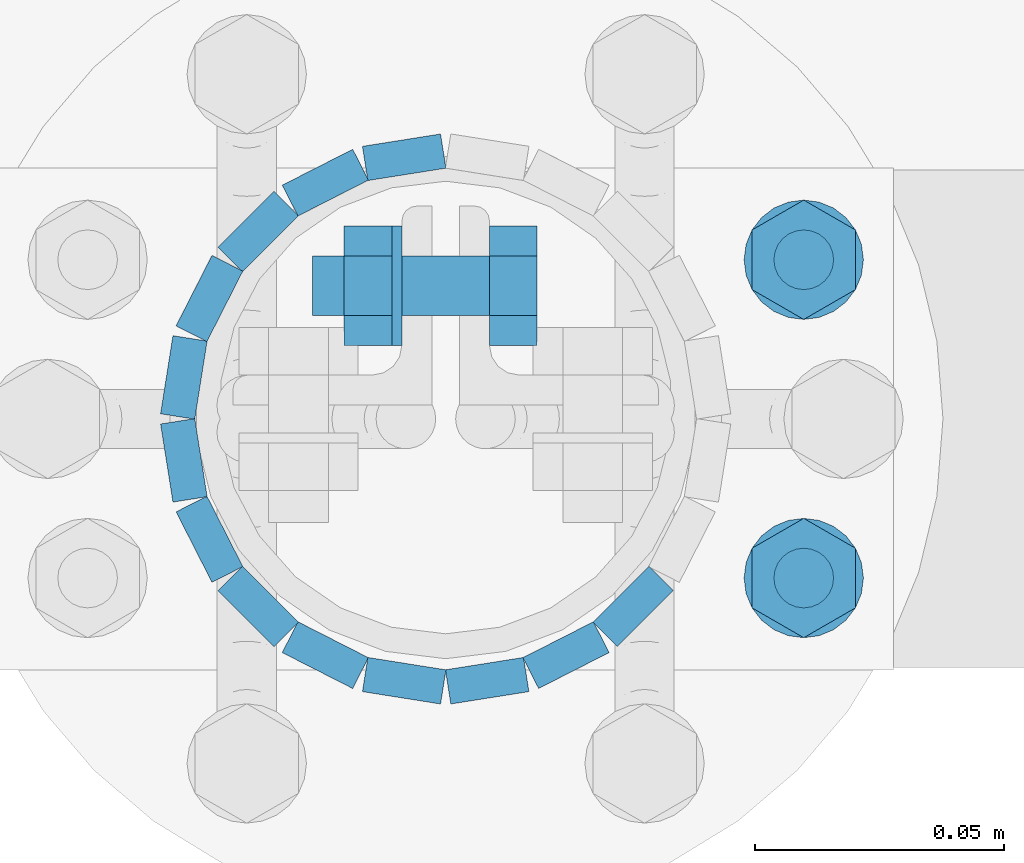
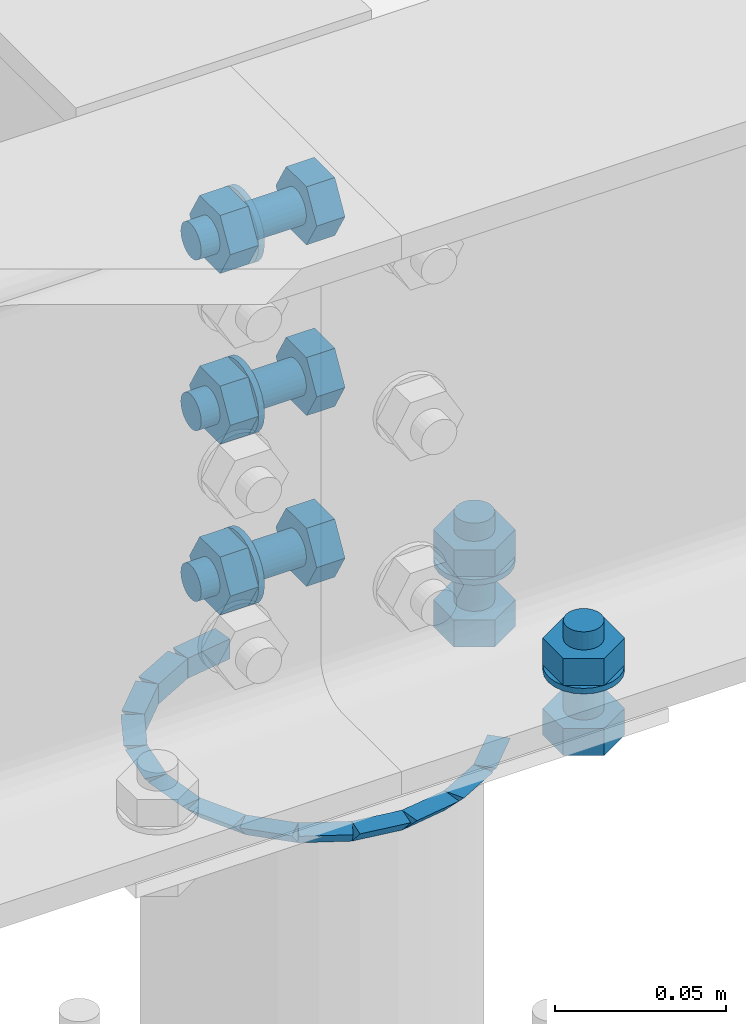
# One storey, part 46 of 84: 31 mechanical fasteners, 13 fasteners.
"""IFC4 building model written with IfcOpenShell, lengths in metres."""

from ifc_helpers import new_model, si_unit, frame, origin_with_axes, place, context, project, spatial, polyline, outline, extrude, type_object, element, save


model = new_model("IFC4")

# Units and contexts
model_context = context("Model", 3, precision=1e-05, world=origin_with_axes())
ifc_project = project(units=[si_unit("LENGTHUNIT", "METRE"), si_unit("AREAUNIT", "SQUARE_METRE"), si_unit("VOLUMEUNIT", "CUBIC_METRE"), si_unit("MASSUNIT", "GRAM", prefix="KILO"), si_unit("TIMEUNIT", "SECOND"), si_unit("PLANEANGLEUNIT", "RADIAN"), si_unit("SOLIDANGLEUNIT", "STERADIAN"), si_unit("THERMODYNAMICTEMPERATUREUNIT", "DEGREE_CELSIUS")], contexts=[model_context])

# Site, building, storey
placement_1 = place(None, origin_with_axes())
site = spatial("IfcSite", under=ifc_project, at=placement_1, Name="Italia", CompositionType="ELEMENT")
building = spatial("IfcBuilding", under=site, at=placement_1, Name="Tettoia", CompositionType="ELEMENT")
storey_placement = place(None, frame((0.0, 0.0, 4.199999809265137), z_axis=(0.0, 0.0, 1.0), x_axis=(1.0, 0.0, 0.0)))
storey = spatial("IfcBuildingStorey", under=building, at=storey_placement, Name="Storey 1", CompositionType="ELEMENT", Elevation=4.199999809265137)

# Fasteners
fastener_type_1 = type_object("IfcFastenerType", Name="Collegamento 0108_-008", PredefinedType="WELD")
placement_2 = place(placement_1, origin_with_axes())
fastener_1_placement = place(placement_2, origin_with_axes())
element("IfcFastener", 1, at=fastener_1_placement, inside=storey, type_object=fastener_type_1, Name="Collegamento 0108_-008", context=model_context, shape_type="SweptSolid", body=[
    extrude(outline(polyline([(0.0, 0.0), (-0.00695801, -0.00717354), (-0.00695801, 0.0), (0.0, 0.0)])), frame((4.11578, 9.93547, 4.19505), z_axis=(-0.70710676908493, -0.70710676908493, 0.0), x_axis=(0.70710676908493, -0.70710676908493, 0.0)), (0.0, 0.0, 1.0), 0.0158998),
])
fastener_type_2 = type_object("IfcFastenerType", Name="Collegamento 0108_-008", PredefinedType="WELD")
fastener_2_placement = place(placement_2, origin_with_axes())
element("IfcFastener", 2, at=fastener_2_placement, inside=storey, type_object=fastener_type_2, Name="Collegamento 0108_-008", context=model_context, shape_type="SweptSolid", body=[
    extrude(outline(polyline([(0.0, 0.0), (-0.00695801, -0.00717354), (-0.00695801, 0.0), (0.0, 0.0)])), frame((4.10286, 9.92301, 4.19505), z_axis=(-0.891006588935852, -0.453990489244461, 0.0), x_axis=(0.453990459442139, -0.891006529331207, 0.0)), (0.0, 0.0, 1.0), 0.0158998),
])
fastener_type_3 = type_object("IfcFastenerType", Name="Collegamento 0108_-008", PredefinedType="WELD")
fastener_3_placement = place(placement_2, origin_with_axes())
element("IfcFastener", 3, at=fastener_3_placement, inside=storey, type_object=fastener_type_3, Name="Collegamento 0108_-008", context=model_context, shape_type="SweptSolid", body=[
    extrude(outline(polyline([(0.0, 0.0), (-0.00695801, -0.00717354), (-0.00695801, 0.0), (0.0, 0.0)])), frame((4.08674, 9.91516, 4.19505), z_axis=(-0.987680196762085, -0.1564861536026, 0.0), x_axis=(0.156486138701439, -0.98768013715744, 0.0)), (0.0, 0.0, 1.0), 0.0159),
])
fastener_type_4 = type_object("IfcFastenerType", Name="Collegamento 0108_-008", PredefinedType="WELD")
fastener_4_placement = place(placement_2, origin_with_axes())
element("IfcFastener", 4, at=fastener_4_placement, inside=storey, type_object=fastener_type_4, Name="Collegamento 0108_-008", context=model_context, shape_type="SweptSolid", body=[
    extrude(outline(polyline([(0.0, 0.0), (-0.00695896, -0.00717354), (-0.00695896, 0.0), (0.0, 0.0)])), frame((4.06897, 9.91267, 4.19505), z_axis=(-0.987680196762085, 0.1564861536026, 0.0), x_axis=(-0.156486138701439, -0.98768013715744, 0.0)), (0.0, 0.0, 1.0), 0.0159),
])
fastener_type_5 = type_object("IfcFastenerType", Name="Collegamento 0108_-008", PredefinedType="WELD")
fastener_5_placement = place(placement_2, origin_with_axes())
element("IfcFastener", 5, at=fastener_5_placement, inside=storey, type_object=fastener_type_5, Name="Collegamento 0108_-008", context=model_context, shape_type="SweptSolid", body=[
    extrude(outline(polyline([(0.0, 0.0), (-0.00695705, -0.00717354), (-0.00695705, 0.0), (0.0, 0.0)])), frame((4.0513, 9.91579, 4.19505), z_axis=(-0.891006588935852, 0.453990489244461, 0.0), x_axis=(-0.453990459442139, -0.891006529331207, 0.0)), (0.0, 0.0, 1.0), 0.0158998),
])
fastener_type_6 = type_object("IfcFastenerType", Name="Collegamento 0108_-008", PredefinedType="WELD")
fastener_6_placement = place(placement_2, origin_with_axes())
element("IfcFastener", 6, at=fastener_6_placement, inside=storey, type_object=fastener_type_6, Name="Collegamento 0108_-008", context=model_context, shape_type="SweptSolid", body=[
    extrude(outline(polyline([(0.0, 0.0), (-0.00695801, -0.00717354), (-0.00695801, 0.0), (0.0, 0.0)])), frame((4.03547, 9.92422, 4.19505), z_axis=(-0.70710676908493, 0.70710676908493, 0.0), x_axis=(-0.70710676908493, -0.70710676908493, 0.0)), (0.0, 0.0, 1.0), 0.0158998),
])
fastener_type_7 = type_object("IfcFastenerType", Name="Collegamento 0108_-008", PredefinedType="WELD")
fastener_7_placement = place(placement_2, origin_with_axes())
element("IfcFastener", 7, at=fastener_7_placement, inside=storey, type_object=fastener_type_7, Name="Collegamento 0108_-008", context=model_context, shape_type="SweptSolid", body=[
    extrude(outline(polyline([(0.0, 0.0), (-0.00695801, -0.00717354), (-0.00695801, 0.0), (0.0, 0.0)])), frame((4.02301, 9.93714, 4.19505), z_axis=(-0.453990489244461, 0.891006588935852, 0.0), x_axis=(-0.891006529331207, -0.453990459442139, 0.0)), (0.0, 0.0, 1.0), 0.0158998),
])
fastener_type_8 = type_object("IfcFastenerType", Name="Collegamento 0108_-008", PredefinedType="WELD")
fastener_8_placement = place(placement_2, origin_with_axes())
element("IfcFastener", 8, at=fastener_8_placement, inside=storey, type_object=fastener_type_8, Name="Collegamento 0108_-008", context=model_context, shape_type="SweptSolid", body=[
    extrude(outline(polyline([(0.0, 0.0), (-0.00695801, -0.00717354), (-0.00695801, 0.0), (0.0, 0.0)])), frame((4.01516, 9.95327, 4.19505), z_axis=(-0.156398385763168, 0.987694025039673, 0.0), x_axis=(-0.987694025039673, -0.156398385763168, 0.0)), (0.0, 0.0, 1.0), 0.0158998),
])
fastener_type_9 = type_object("IfcFastenerType", Name="Collegamento 0108_-008", PredefinedType="WELD")
fastener_9_placement = place(placement_2, origin_with_axes())
element("IfcFastener", 9, at=fastener_9_placement, inside=storey, type_object=fastener_type_9, Name="Collegamento 0108_-008", context=model_context, shape_type="SweptSolid", body=[
    extrude(outline(polyline([(0.0, 0.0), (-0.00695753, -0.00717354), (-0.00695753, 0.0), (0.0, 0.0)])), frame((4.01267, 9.97103, 4.19505), z_axis=(0.156398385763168, 0.987694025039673, 0.0), x_axis=(-0.987694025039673, 0.156398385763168, 0.0)), (0.0, 0.0, 1.0), 0.0158998),
])
fastener_type_10 = type_object("IfcFastenerType", Name="Collegamento 0108_-008", PredefinedType="WELD")
fastener_10_placement = place(placement_2, origin_with_axes())
element("IfcFastener", 10, at=fastener_10_placement, inside=storey, type_object=fastener_type_10, Name="Collegamento 0108_-008", context=model_context, shape_type="SweptSolid", body=[
    extrude(outline(polyline([(0.0, 0.0), (-0.00695848, -0.00717354), (-0.00695848, 0.0), (0.0, 0.0)])), frame((4.01579, 9.9887, 4.19505), z_axis=(0.453990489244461, 0.891006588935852, 0.0), x_axis=(-0.891006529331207, 0.453990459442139, 0.0)), (0.0, 0.0, 1.0), 0.0158998),
])
fastener_type_11 = type_object("IfcFastenerType", Name="Collegamento 0108_-008", PredefinedType="WELD")
fastener_11_placement = place(placement_2, origin_with_axes())
element("IfcFastener", 11, at=fastener_11_placement, inside=storey, type_object=fastener_type_11, Name="Collegamento 0108_-008", context=model_context, shape_type="SweptSolid", body=[
    extrude(outline(polyline([(0.0, 0.0), (-0.00695801, -0.00717354), (-0.00695801, 0.0), (0.0, 0.0)])), frame((4.02422, 10.0045, 4.19505), z_axis=(0.70710676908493, 0.70710676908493, 0.0), x_axis=(-0.70710676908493, 0.70710676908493, 0.0)), (0.0, 0.0, 1.0), 0.0158998),
])
fastener_type_12 = type_object("IfcFastenerType", Name="Collegamento 0108_-008", PredefinedType="WELD")
fastener_12_placement = place(placement_2, origin_with_axes())
element("IfcFastener", 12, at=fastener_12_placement, inside=storey, type_object=fastener_type_12, Name="Collegamento 0108_-008", context=model_context, shape_type="SweptSolid", body=[
    extrude(outline(polyline([(0.0, 0.0), (-0.00695848, -0.00717354), (-0.00695848, 0.0), (0.0, 0.0)])), frame((4.03714, 10.017, 4.19505), z_axis=(0.891006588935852, 0.453990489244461, 0.0), x_axis=(-0.453990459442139, 0.891006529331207, 0.0)), (0.0, 0.0, 1.0), 0.0158998),
])
fastener_type_13 = type_object("IfcFastenerType", Name="Collegamento 0108_-008", PredefinedType="WELD")
fastener_13_placement = place(placement_2, origin_with_axes())
element("IfcFastener", 13, at=fastener_13_placement, inside=storey, type_object=fastener_type_13, Name="Collegamento 0108_-008", context=model_context, shape_type="SweptSolid", body=[
    extrude(outline(polyline([(0.0, 0.0), (-0.00695801, -0.00717354), (-0.00695801, 0.0), (0.0, 0.0)])), frame((4.05326, 10.0248, 4.19505), z_axis=(0.987680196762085, 0.1564861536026, 0.0), x_axis=(-0.156486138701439, 0.98768013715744, 0.0)), (0.0, 0.0, 1.0), 0.0159),
])

# Mechanical fasteners
mechanical_fastener_type_1 = type_object("IfcMechanicalFastenerType", Name="Collegamento 0108_-008", PredefinedType="BOLT")
mechanical_fastener_1_placement = place(placement_2, origin_with_axes())
element("IfcMechanicalFastener", 14, at=mechanical_fastener_1_placement, inside=storey, type_object=mechanical_fastener_type_1, Name="Collegamento 0108_-008", NominalDiameter=0.0119997, context=model_context, shape_type="SweptSolid", body=[
    extrude(outline(polyline([(0.0, 0.0), (0.0120001, 0.0), (0.0179996, -0.0103922), (0.0120001, -0.0207844), (0.0, -0.0207844), (-0.00599957, -0.0103922), (0.0, 0.0)])), frame((4.15239, 9.996, 4.195), z_axis=(0.0, 0.0, -1.0), x_axis=(0.0, 1.0, 0.0)), (0.0, 0.0, 1.0), 0.00959969),
])
mechanical_fastener_type_2 = type_object("IfcMechanicalFastenerType", Name="Collegamento 0108_-008", PredefinedType="BOLT")
mechanical_fastener_2_placement = place(placement_2, origin_with_axes())
element("IfcMechanicalFastener", 15, at=mechanical_fastener_2_placement, inside=storey, type_object=mechanical_fastener_type_2, Name="Collegamento 0108_-008", NominalDiameter=0.012, context=model_context, shape_type="SweptSolid", body=[
    extrude(outline(polyline([(0.0, 0.0), (-0.000204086, -0.00155306), (-0.000802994, -0.00299978), (-0.00175667, -0.00424242), (-0.00299931, -0.00519609), (-0.00444698, -0.00579548), (-0.00599957, -0.00600004), (-0.00755215, -0.00579548), (-0.00899982, -0.00519609), (-0.0102425, -0.00424242), (-0.0111961, -0.00299978), (-0.011795, -0.00155306), (-0.0119991, 0.0), (-0.011795, 0.00155306), (-0.0111961, 0.00299978), (-0.0102425, 0.00424242), (-0.00899982, 0.00519609), (-0.00755215, 0.00579548), (-0.00599957, 0.00600004), (-0.00444698, 0.00579548), (-0.00299931, 0.00519609), (-0.00175667, 0.00424242), (-0.000802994, 0.00299978), (-0.000204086, 0.00155306), (0.0, 0.0)])), frame((4.142, 10.008, 4.2265), z_axis=(0.0, 0.0, -1.0), x_axis=(0.0, 1.0, 0.0)), (0.0, 0.0, 1.0), 0.0315003),
])
mechanical_fastener_type_3 = type_object("IfcMechanicalFastenerType", Name="Collegamento 0108_-008", PredefinedType="BOLT")
mechanical_fastener_3_placement = place(placement_2, origin_with_axes())
element("IfcMechanicalFastener", 16, at=mechanical_fastener_3_placement, inside=storey, type_object=mechanical_fastener_type_3, Name="Collegamento 0108_-008", NominalDiameter=0.0119997, context=model_context, shape_type="SweptSolid", body=[
    extrude(outline(polyline([(0.0, 0.0), (0.0120001, 0.0), (0.0179996, -0.0103922), (0.0120001, -0.0207844), (0.0, -0.0207844), (-0.00599957, -0.0103922), (0.0, 0.0)])), frame((4.15239, 9.996, 4.2201), z_axis=(0.0, 0.0, -1.0), x_axis=(0.0, 1.0, 0.0)), (0.0, 0.0, 1.0), 0.00960016),
])
mechanical_fastener_type_4 = type_object("IfcMechanicalFastenerType", Name="Collegamento 0108_-008", PredefinedType="BOLT")
mechanical_fastener_4_placement = place(placement_2, origin_with_axes())
element("IfcMechanicalFastener", 17, at=mechanical_fastener_4_placement, inside=storey, type_object=mechanical_fastener_type_4, Name="Collegamento 0108_-008", NominalDiameter=0.024, context=model_context, shape_type="SweptSolid", body=[
    extrude(outline(polyline([(0.0, 0.0), (-0.000409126, -0.00310564), (-0.00160789, -0.00600004), (-0.00351524, -0.00848532), (-0.00600052, -0.0103922), (-0.00889397, -0.011591), (-0.0120001, -0.0120001), (-0.0151062, -0.011591), (-0.0179996, -0.0103922), (-0.0204849, -0.00848532), (-0.0223923, -0.00600004), (-0.023591, -0.00310564), (-0.0240002, 0.0), (-0.023591, 0.00310564), (-0.0223923, 0.00600004), (-0.0204849, 0.00848532), (-0.0179996, 0.0103922), (-0.0151062, 0.011591), (-0.0120001, 0.0120001), (-0.00889397, 0.011591), (-0.00600052, 0.0103922), (-0.00351524, 0.00848532), (-0.00160789, 0.00600004), (-0.000409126, 0.00310564), (0.0, 0.0)])), frame((4.142, 10.014, 4.2105), z_axis=(0.0, 0.0, -1.0), x_axis=(0.0, 1.0, 0.0)), (0.0, 0.0, 1.0), 0.00199986),
])
mechanical_fastener_type_5 = type_object("IfcMechanicalFastenerType", Name="Collegamento 0108_-008", PredefinedType="BOLT")
mechanical_fastener_5_placement = place(placement_2, origin_with_axes())
element("IfcMechanicalFastener", 18, at=mechanical_fastener_5_placement, inside=storey, type_object=mechanical_fastener_type_5, Name="Collegamento 0108_-008", NominalDiameter=0.0119997, context=model_context, shape_type="SweptSolid", body=[
    extrude(outline(polyline([(0.0, 0.0), (0.0120001, 0.0), (0.0179996, -0.0103922), (0.0120001, -0.0207844), (0.0, -0.0207844), (-0.00599957, -0.0103922), (0.0, 0.0)])), frame((4.15239, 9.932, 4.195), z_axis=(0.0, 0.0, -1.0), x_axis=(0.0, 1.0, 0.0)), (0.0, 0.0, 1.0), 0.00959969),
])
mechanical_fastener_type_6 = type_object("IfcMechanicalFastenerType", Name="Collegamento 0108_-008", PredefinedType="BOLT")
mechanical_fastener_6_placement = place(placement_2, origin_with_axes())
element("IfcMechanicalFastener", 19, at=mechanical_fastener_6_placement, inside=storey, type_object=mechanical_fastener_type_6, Name="Collegamento 0108_-008", NominalDiameter=0.012, context=model_context, shape_type="SweptSolid", body=[
    extrude(outline(polyline([(0.0, 0.0), (-0.000204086, -0.00155306), (-0.000802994, -0.00299978), (-0.00175667, -0.00424242), (-0.00299931, -0.00519609), (-0.00444698, -0.00579548), (-0.00599957, -0.00600004), (-0.00755215, -0.00579548), (-0.00899982, -0.00519609), (-0.0102425, -0.00424242), (-0.0111961, -0.00299978), (-0.011795, -0.00155306), (-0.0119991, 0.0), (-0.011795, 0.00155306), (-0.0111961, 0.00299978), (-0.0102425, 0.00424242), (-0.00899982, 0.00519609), (-0.00755215, 0.00579548), (-0.00599957, 0.00600004), (-0.00444698, 0.00579548), (-0.00299931, 0.00519609), (-0.00175667, 0.00424242), (-0.000802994, 0.00299978), (-0.000204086, 0.00155306), (0.0, 0.0)])), frame((4.142, 9.944, 4.2265), z_axis=(0.0, 0.0, -1.0), x_axis=(0.0, 1.0, 0.0)), (0.0, 0.0, 1.0), 0.0315003),
])
mechanical_fastener_type_7 = type_object("IfcMechanicalFastenerType", Name="Collegamento 0108_-008", PredefinedType="BOLT")
mechanical_fastener_7_placement = place(placement_2, origin_with_axes())
element("IfcMechanicalFastener", 20, at=mechanical_fastener_7_placement, inside=storey, type_object=mechanical_fastener_type_7, Name="Collegamento 0108_-008", NominalDiameter=0.0119997, context=model_context, shape_type="SweptSolid", body=[
    extrude(outline(polyline([(0.0, 0.0), (0.0120001, 0.0), (0.0179996, -0.0103922), (0.0120001, -0.0207844), (0.0, -0.0207844), (-0.00599957, -0.0103922), (0.0, 0.0)])), frame((4.15239, 9.932, 4.2201), z_axis=(0.0, 0.0, -1.0), x_axis=(0.0, 1.0, 0.0)), (0.0, 0.0, 1.0), 0.00960016),
])
mechanical_fastener_type_8 = type_object("IfcMechanicalFastenerType", Name="Collegamento 0108_-008", PredefinedType="BOLT")
mechanical_fastener_8_placement = place(placement_2, origin_with_axes())
element("IfcMechanicalFastener", 21, at=mechanical_fastener_8_placement, inside=storey, type_object=mechanical_fastener_type_8, Name="Collegamento 0108_-008", NominalDiameter=0.024, context=model_context, shape_type="SweptSolid", body=[
    extrude(outline(polyline([(0.0, 0.0), (-0.000409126, -0.00310564), (-0.00160789, -0.00600004), (-0.00351524, -0.00848532), (-0.00600052, -0.0103922), (-0.00889397, -0.011591), (-0.0120001, -0.0120001), (-0.0151062, -0.011591), (-0.0179996, -0.0103922), (-0.0204849, -0.00848532), (-0.0223923, -0.00600004), (-0.023591, -0.00310564), (-0.0240002, 0.0), (-0.023591, 0.00310564), (-0.0223923, 0.00600004), (-0.0204849, 0.00848532), (-0.0179996, 0.0103922), (-0.0151062, 0.011591), (-0.0120001, 0.0120001), (-0.00889397, 0.011591), (-0.00600052, 0.0103922), (-0.00351524, 0.00848532), (-0.00160789, 0.00600004), (-0.000409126, 0.00310564), (0.0, 0.0)])), frame((4.142, 9.95, 4.2105), z_axis=(0.0, 0.0, -1.0), x_axis=(0.0, 1.0, 0.0)), (0.0, 0.0, 1.0), 0.00199986),
])
mechanical_fastener_type_9 = type_object("IfcMechanicalFastenerType", Name="Collegamento 0108_0112", PredefinedType="BOLT")
mechanical_fastener_9_placement = place(placement_2, origin_with_axes())
element("IfcMechanicalFastener", 22, at=mechanical_fastener_9_placement, inside=storey, type_object=mechanical_fastener_type_9, Name="Collegamento 0108_0112", NominalDiameter=0.0119997, context=model_context, shape_type="SweptSolid", body=[
    extrude(outline(polyline([(0.0, 0.0), (-0.0120001, 0.0), (-0.0179996, 0.0103927), (-0.0120001, 0.0207849), (0.0, 0.0207849), (0.00600052, 0.0103927), (0.0, 0.0)])), frame((4.0788, 10.0028, 4.22861), z_axis=(1.0, 0.0, 0.0), x_axis=(0.0, 1.0, 0.0)), (0.0, 0.0, 1.0), 0.00960016),
])
mechanical_fastener_type_10 = type_object("IfcMechanicalFastenerType", Name="Collegamento 0108_0112", PredefinedType="BOLT")
mechanical_fastener_10_placement = place(placement_2, origin_with_axes())
element("IfcMechanicalFastener", 23, at=mechanical_fastener_10_placement, inside=storey, type_object=mechanical_fastener_type_10, Name="Collegamento 0108_0112", NominalDiameter=0.012, context=model_context, shape_type="SweptSolid", body=[
    extrude(outline(polyline([(0.0, 0.0), (-0.000204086, -0.00155306), (-0.000802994, -0.00299978), (-0.00175667, -0.00424242), (-0.00299931, -0.00519609), (-0.00444698, -0.00579548), (-0.00599957, -0.00600004), (-0.00755215, -0.00579548), (-0.00899982, -0.00519609), (-0.0102425, -0.00424242), (-0.0111961, -0.00299978), (-0.011795, -0.00155306), (-0.0119991, 0.0), (-0.011795, 0.00155306), (-0.0111961, 0.00299978), (-0.0102425, 0.00424242), (-0.00899982, 0.00519609), (-0.00755215, 0.00579548), (-0.00599957, 0.00600004), (-0.00444698, 0.00579548), (-0.00299931, 0.00519609), (-0.00175667, 0.00424242), (-0.000802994, 0.00299978), (-0.000204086, 0.00155306), (0.0, 0.0)])), frame((4.0432, 10.0028, 4.239), z_axis=(1.0, 0.0, 0.0), x_axis=(0.0, 1.0, 0.0)), (0.0, 0.0, 1.0), 0.0356002),
])
mechanical_fastener_type_11 = type_object("IfcMechanicalFastenerType", Name="Collegamento 0108_0112", PredefinedType="BOLT")
mechanical_fastener_11_placement = place(placement_2, origin_with_axes())
element("IfcMechanicalFastener", 24, at=mechanical_fastener_11_placement, inside=storey, type_object=mechanical_fastener_type_11, Name="Collegamento 0108_0112", NominalDiameter=0.0119997, context=model_context, shape_type="SweptSolid", body=[
    extrude(outline(polyline([(0.0, 0.0), (-0.0120001, 0.0), (-0.0179996, 0.0103927), (-0.0120001, 0.0207849), (0.0, 0.0207849), (0.00600052, 0.0103927), (0.0, 0.0)])), frame((4.0496, 10.0028, 4.22861), z_axis=(1.0, 0.0, 0.0), x_axis=(0.0, 1.0, 0.0)), (0.0, 0.0, 1.0), 0.00960016),
])
mechanical_fastener_type_12 = type_object("IfcMechanicalFastenerType", Name="Collegamento 0108_0112", PredefinedType="BOLT")
mechanical_fastener_12_placement = place(placement_2, origin_with_axes())
element("IfcMechanicalFastener", 25, at=mechanical_fastener_12_placement, inside=storey, type_object=mechanical_fastener_type_12, Name="Collegamento 0108_0112", NominalDiameter=0.024, context=model_context, shape_type="SweptSolid", body=[
    extrude(outline(polyline([(0.0, 0.0), (-0.000409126, -0.00310564), (-0.00160789, -0.00600004), (-0.00351524, -0.00848532), (-0.00600052, -0.0103922), (-0.00889397, -0.011591), (-0.0120001, -0.0120001), (-0.0151062, -0.011591), (-0.0179996, -0.0103922), (-0.0204849, -0.00848532), (-0.0223923, -0.00600004), (-0.023591, -0.00310564), (-0.0240002, 0.0), (-0.023591, 0.00310564), (-0.0223923, 0.00600004), (-0.0204849, 0.00848532), (-0.0179996, 0.0103922), (-0.0151062, 0.011591), (-0.0120001, 0.0120001), (-0.00889397, 0.011591), (-0.00600052, 0.0103922), (-0.00351524, 0.00848532), (-0.00160789, 0.00600004), (-0.000409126, 0.00310564), (0.0, 0.0)])), frame((4.0592, 10.0088, 4.239), z_axis=(1.0, 0.0, 0.0), x_axis=(0.0, 1.0, 0.0)), (0.0, 0.0, 1.0), 0.00199986),
])
mechanical_fastener_type_13 = type_object("IfcMechanicalFastenerType", Name="Collegamento 0108_0112", PredefinedType="BOLT")
mechanical_fastener_13_placement = place(placement_2, origin_with_axes())
element("IfcMechanicalFastener", 26, at=mechanical_fastener_13_placement, inside=storey, type_object=mechanical_fastener_type_13, Name="Collegamento 0108_0112", NominalDiameter=0.0119997, context=model_context, shape_type="SweptSolid", body=[
    extrude(outline(polyline([(0.0, 0.0), (-0.0120001, 0.0), (-0.0179996, 0.0103922), (-0.0120001, 0.0207844), (0.0, 0.0207844), (0.00600052, 0.0103922), (0.0, 0.0)])), frame((4.0788, 10.0028, 4.28961), z_axis=(1.0, 0.0, 0.0), x_axis=(0.0, 1.0, 0.0)), (0.0, 0.0, 1.0), 0.00960016),
])
mechanical_fastener_type_14 = type_object("IfcMechanicalFastenerType", Name="Collegamento 0108_0112", PredefinedType="BOLT")
mechanical_fastener_14_placement = place(placement_2, origin_with_axes())
element("IfcMechanicalFastener", 27, at=mechanical_fastener_14_placement, inside=storey, type_object=mechanical_fastener_type_14, Name="Collegamento 0108_0112", NominalDiameter=0.012, context=model_context, shape_type="SweptSolid", body=[
    extrude(outline(polyline([(0.0, 0.0), (-0.000204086, -0.00155306), (-0.000802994, -0.00299978), (-0.00175667, -0.00424242), (-0.00299931, -0.00519609), (-0.00444698, -0.00579548), (-0.00599957, -0.00600004), (-0.00755215, -0.00579548), (-0.00899982, -0.00519609), (-0.0102425, -0.00424242), (-0.0111961, -0.00299978), (-0.011795, -0.00155306), (-0.0119991, 0.0), (-0.011795, 0.00155306), (-0.0111961, 0.00299978), (-0.0102425, 0.00424242), (-0.00899982, 0.00519609), (-0.00755215, 0.00579548), (-0.00599957, 0.00600004), (-0.00444698, 0.00579548), (-0.00299931, 0.00519609), (-0.00175667, 0.00424242), (-0.000802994, 0.00299978), (-0.000204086, 0.00155306), (0.0, 0.0)])), frame((4.0432, 10.0028, 4.3), z_axis=(1.0, 0.0, 0.0), x_axis=(0.0, 1.0, 0.0)), (0.0, 0.0, 1.0), 0.0356002),
])
mechanical_fastener_type_15 = type_object("IfcMechanicalFastenerType", Name="Collegamento 0108_0112", PredefinedType="BOLT")
mechanical_fastener_15_placement = place(placement_2, origin_with_axes())
element("IfcMechanicalFastener", 28, at=mechanical_fastener_15_placement, inside=storey, type_object=mechanical_fastener_type_15, Name="Collegamento 0108_0112", NominalDiameter=0.0119997, context=model_context, shape_type="SweptSolid", body=[
    extrude(outline(polyline([(0.0, 0.0), (-0.0120001, 0.0), (-0.0179996, 0.0103922), (-0.0120001, 0.0207844), (0.0, 0.0207844), (0.00600052, 0.0103922), (0.0, 0.0)])), frame((4.0496, 10.0028, 4.28961), z_axis=(1.0, 0.0, 0.0), x_axis=(0.0, 1.0, 0.0)), (0.0, 0.0, 1.0), 0.00960016),
])
mechanical_fastener_type_16 = type_object("IfcMechanicalFastenerType", Name="Collegamento 0108_0112", PredefinedType="BOLT")
mechanical_fastener_16_placement = place(placement_2, origin_with_axes())
element("IfcMechanicalFastener", 29, at=mechanical_fastener_16_placement, inside=storey, type_object=mechanical_fastener_type_16, Name="Collegamento 0108_0112", NominalDiameter=0.024, context=model_context, shape_type="SweptSolid", body=[
    extrude(outline(polyline([(0.0, 0.0), (-0.000409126, -0.00310564), (-0.00160789, -0.00600004), (-0.00351524, -0.00848532), (-0.00600052, -0.0103922), (-0.00889397, -0.011591), (-0.0120001, -0.0120001), (-0.0151062, -0.011591), (-0.0179996, -0.0103922), (-0.0204849, -0.00848532), (-0.0223923, -0.00600004), (-0.023591, -0.00310564), (-0.0240002, 0.0), (-0.023591, 0.00310564), (-0.0223923, 0.00600004), (-0.0204849, 0.00848532), (-0.0179996, 0.0103922), (-0.0151062, 0.011591), (-0.0120001, 0.0120001), (-0.00889397, 0.011591), (-0.00600052, 0.0103922), (-0.00351524, 0.00848532), (-0.00160789, 0.00600004), (-0.000409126, 0.00310564), (0.0, 0.0)])), frame((4.0592, 10.0088, 4.3), z_axis=(1.0, 0.0, 0.0), x_axis=(0.0, 1.0, 0.0)), (0.0, 0.0, 1.0), 0.00199986),
])
mechanical_fastener_type_17 = type_object("IfcMechanicalFastenerType", Name="Collegamento 0108_0112", PredefinedType="BOLT")
mechanical_fastener_17_placement = place(placement_2, origin_with_axes())
element("IfcMechanicalFastener", 30, at=mechanical_fastener_17_placement, inside=storey, type_object=mechanical_fastener_type_17, Name="Collegamento 0108_0112", NominalDiameter=0.0119997, context=model_context, shape_type="SweptSolid", body=[
    extrude(outline(polyline([(0.0, 0.0), (-0.0120001, 0.0), (-0.0179996, 0.0103922), (-0.0120001, 0.0207849), (0.0, 0.0207849), (0.00600052, 0.0103922), (0.0, 0.0)])), frame((4.0788, 10.0028, 4.35061), z_axis=(1.0, 0.0, 0.0), x_axis=(0.0, 1.0, 0.0)), (0.0, 0.0, 1.0), 0.00960016),
])
mechanical_fastener_type_18 = type_object("IfcMechanicalFastenerType", Name="Collegamento 0108_0112", PredefinedType="BOLT")
mechanical_fastener_18_placement = place(placement_2, origin_with_axes())
element("IfcMechanicalFastener", 31, at=mechanical_fastener_18_placement, inside=storey, type_object=mechanical_fastener_type_18, Name="Collegamento 0108_0112", NominalDiameter=0.012, context=model_context, shape_type="SweptSolid", body=[
    extrude(outline(polyline([(0.0, 0.0), (-0.000204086, -0.00155306), (-0.000802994, -0.00299978), (-0.00175667, -0.00424242), (-0.00299931, -0.00519609), (-0.00444698, -0.00579548), (-0.00599957, -0.00600004), (-0.00755215, -0.00579548), (-0.00899982, -0.00519609), (-0.0102425, -0.00424242), (-0.0111961, -0.00299978), (-0.011795, -0.00155306), (-0.0119991, 0.0), (-0.011795, 0.00155306), (-0.0111961, 0.00299978), (-0.0102425, 0.00424242), (-0.00899982, 0.00519609), (-0.00755215, 0.00579548), (-0.00599957, 0.00600004), (-0.00444698, 0.00579548), (-0.00299931, 0.00519609), (-0.00175667, 0.00424242), (-0.000802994, 0.00299978), (-0.000204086, 0.00155306), (0.0, 0.0)])), frame((4.0432, 10.0028, 4.361), z_axis=(1.0, 0.0, 0.0), x_axis=(0.0, 1.0, 0.0)), (0.0, 0.0, 1.0), 0.0356002),
])
mechanical_fastener_type_19 = type_object("IfcMechanicalFastenerType", Name="Collegamento 0108_0112", PredefinedType="BOLT")
mechanical_fastener_19_placement = place(placement_2, origin_with_axes())
element("IfcMechanicalFastener", 32, at=mechanical_fastener_19_placement, inside=storey, type_object=mechanical_fastener_type_19, Name="Collegamento 0108_0112", NominalDiameter=0.0119997, context=model_context, shape_type="SweptSolid", body=[
    extrude(outline(polyline([(0.0, 0.0), (-0.0120001, 0.0), (-0.0179996, 0.0103922), (-0.0120001, 0.0207849), (0.0, 0.0207849), (0.00600052, 0.0103922), (0.0, 0.0)])), frame((4.0496, 10.0028, 4.35061), z_axis=(1.0, 0.0, 0.0), x_axis=(0.0, 1.0, 0.0)), (0.0, 0.0, 1.0), 0.00960016),
])
mechanical_fastener_type_20 = type_object("IfcMechanicalFastenerType", Name="Collegamento 0108_0112", PredefinedType="BOLT")
mechanical_fastener_20_placement = place(placement_2, origin_with_axes())
element("IfcMechanicalFastener", 33, at=mechanical_fastener_20_placement, inside=storey, type_object=mechanical_fastener_type_20, Name="Collegamento 0108_0112", NominalDiameter=0.024, context=model_context, shape_type="SweptSolid", body=[
    extrude(outline(polyline([(0.0, 0.0), (-0.000409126, -0.00310564), (-0.00160789, -0.00600004), (-0.00351524, -0.00848532), (-0.00600052, -0.0103922), (-0.00889397, -0.011591), (-0.0120001, -0.0120001), (-0.0151062, -0.011591), (-0.0179996, -0.0103922), (-0.0204849, -0.00848532), (-0.0223923, -0.00600004), (-0.023591, -0.00310564), (-0.0240002, 0.0), (-0.023591, 0.00310564), (-0.0223923, 0.00600004), (-0.0204849, 0.00848532), (-0.0179996, 0.0103922), (-0.0151062, 0.011591), (-0.0120001, 0.0120001), (-0.00889397, 0.011591), (-0.00600052, 0.0103922), (-0.00351524, 0.00848532), (-0.00160789, 0.00600004), (-0.000409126, 0.00310564), (0.0, 0.0)])), frame((4.0592, 10.0088, 4.361), z_axis=(1.0, 0.0, 0.0), x_axis=(0.0, 1.0, 0.0)), (0.0, 0.0, 1.0), 0.00199986),
])
mechanical_fastener_type_21 = type_object("IfcMechanicalFastenerType", Name="Collegamento 0108_0112", PredefinedType="BOLT")
mechanical_fastener_21_placement = place(placement_2, origin_with_axes())
element("IfcMechanicalFastener", 34, at=mechanical_fastener_21_placement, inside=storey, type_object=mechanical_fastener_type_21, Name="Collegamento 0108_0112", NominalDiameter=0.0119997, context=model_context, shape_type="SweptSolid", body=[
    extrude(outline(polyline([(0.0, 0.0), (-0.0120001, 0.0), (-0.0179996, 0.0103927), (-0.0120001, 0.0207849), (0.0, 0.0207849), (0.00600052, 0.0103927), (0.0, 0.0)])), frame((4.0788, 10.0028, 4.22861), z_axis=(1.0, 0.0, 0.0), x_axis=(0.0, 1.0, 0.0)), (0.0, 0.0, 1.0), 0.00960016),
])
mechanical_fastener_type_22 = type_object("IfcMechanicalFastenerType", Name="Collegamento 0108_0112", PredefinedType="BOLT")
mechanical_fastener_22_placement = place(placement_2, origin_with_axes())
element("IfcMechanicalFastener", 35, at=mechanical_fastener_22_placement, inside=storey, type_object=mechanical_fastener_type_22, Name="Collegamento 0108_0112", NominalDiameter=0.012, context=model_context, shape_type="SweptSolid", body=[
    extrude(outline(polyline([(0.0, 0.0), (-0.000204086, -0.00155306), (-0.000802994, -0.00299978), (-0.00175667, -0.00424242), (-0.00299931, -0.00519609), (-0.00444698, -0.00579548), (-0.00599957, -0.00600004), (-0.00755215, -0.00579548), (-0.00899982, -0.00519609), (-0.0102425, -0.00424242), (-0.0111961, -0.00299978), (-0.011795, -0.00155306), (-0.0119991, 0.0), (-0.011795, 0.00155306), (-0.0111961, 0.00299978), (-0.0102425, 0.00424242), (-0.00899982, 0.00519609), (-0.00755215, 0.00579548), (-0.00599957, 0.00600004), (-0.00444698, 0.00579548), (-0.00299931, 0.00519609), (-0.00175667, 0.00424242), (-0.000802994, 0.00299978), (-0.000204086, 0.00155306), (0.0, 0.0)])), frame((4.0432, 10.0028, 4.239), z_axis=(1.0, 0.0, 0.0), x_axis=(0.0, 1.0, 0.0)), (0.0, 0.0, 1.0), 0.0356002),
])
mechanical_fastener_type_23 = type_object("IfcMechanicalFastenerType", Name="Collegamento 0108_0112", PredefinedType="BOLT")
mechanical_fastener_23_placement = place(placement_2, origin_with_axes())
element("IfcMechanicalFastener", 36, at=mechanical_fastener_23_placement, inside=storey, type_object=mechanical_fastener_type_23, Name="Collegamento 0108_0112", NominalDiameter=0.0119997, context=model_context, shape_type="SweptSolid", body=[
    extrude(outline(polyline([(0.0, 0.0), (-0.0120001, 0.0), (-0.0179996, 0.0103927), (-0.0120001, 0.0207849), (0.0, 0.0207849), (0.00600052, 0.0103927), (0.0, 0.0)])), frame((4.0496, 10.0028, 4.22861), z_axis=(1.0, 0.0, 0.0), x_axis=(0.0, 1.0, 0.0)), (0.0, 0.0, 1.0), 0.00960016),
])
mechanical_fastener_type_24 = type_object("IfcMechanicalFastenerType", Name="Collegamento 0108_0112", PredefinedType="BOLT")
mechanical_fastener_24_placement = place(placement_2, origin_with_axes())
element("IfcMechanicalFastener", 37, at=mechanical_fastener_24_placement, inside=storey, type_object=mechanical_fastener_type_24, Name="Collegamento 0108_0112", NominalDiameter=0.024, context=model_context, shape_type="SweptSolid", body=[
    extrude(outline(polyline([(0.0, 0.0), (-0.000409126, -0.00310564), (-0.00160789, -0.00600004), (-0.00351524, -0.00848532), (-0.00600052, -0.0103922), (-0.00889397, -0.011591), (-0.0120001, -0.0120001), (-0.0151062, -0.011591), (-0.0179996, -0.0103922), (-0.0204849, -0.00848532), (-0.0223923, -0.00600004), (-0.023591, -0.00310564), (-0.0240002, 0.0), (-0.023591, 0.00310564), (-0.0223923, 0.00600004), (-0.0204849, 0.00848532), (-0.0179996, 0.0103922), (-0.0151062, 0.011591), (-0.0120001, 0.0120001), (-0.00889397, 0.011591), (-0.00600052, 0.0103922), (-0.00351524, 0.00848532), (-0.00160789, 0.00600004), (-0.000409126, 0.00310564), (0.0, 0.0)])), frame((4.0592, 10.0088, 4.239), z_axis=(1.0, 0.0, 0.0), x_axis=(0.0, 1.0, 0.0)), (0.0, 0.0, 1.0), 0.00199986),
])
mechanical_fastener_type_25 = type_object("IfcMechanicalFastenerType", Name="Collegamento 0108_0112", PredefinedType="BOLT")
mechanical_fastener_25_placement = place(placement_2, origin_with_axes())
element("IfcMechanicalFastener", 38, at=mechanical_fastener_25_placement, inside=storey, type_object=mechanical_fastener_type_25, Name="Collegamento 0108_0112", NominalDiameter=0.0119997, context=model_context, shape_type="SweptSolid", body=[
    extrude(outline(polyline([(0.0, 0.0), (-0.0120001, 0.0), (-0.0179996, 0.0103922), (-0.0120001, 0.0207844), (0.0, 0.0207844), (0.00600052, 0.0103922), (0.0, 0.0)])), frame((4.0788, 10.0028, 4.28961), z_axis=(1.0, 0.0, 0.0), x_axis=(0.0, 1.0, 0.0)), (0.0, 0.0, 1.0), 0.00960016),
])
mechanical_fastener_type_26 = type_object("IfcMechanicalFastenerType", Name="Collegamento 0108_0112", PredefinedType="BOLT")
mechanical_fastener_26_placement = place(placement_2, origin_with_axes())
element("IfcMechanicalFastener", 39, at=mechanical_fastener_26_placement, inside=storey, type_object=mechanical_fastener_type_26, Name="Collegamento 0108_0112", NominalDiameter=0.012, context=model_context, shape_type="SweptSolid", body=[
    extrude(outline(polyline([(0.0, 0.0), (-0.000204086, -0.00155306), (-0.000802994, -0.00299978), (-0.00175667, -0.00424242), (-0.00299931, -0.00519609), (-0.00444698, -0.00579548), (-0.00599957, -0.00600004), (-0.00755215, -0.00579548), (-0.00899982, -0.00519609), (-0.0102425, -0.00424242), (-0.0111961, -0.00299978), (-0.011795, -0.00155306), (-0.0119991, 0.0), (-0.011795, 0.00155306), (-0.0111961, 0.00299978), (-0.0102425, 0.00424242), (-0.00899982, 0.00519609), (-0.00755215, 0.00579548), (-0.00599957, 0.00600004), (-0.00444698, 0.00579548), (-0.00299931, 0.00519609), (-0.00175667, 0.00424242), (-0.000802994, 0.00299978), (-0.000204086, 0.00155306), (0.0, 0.0)])), frame((4.0432, 10.0028, 4.3), z_axis=(1.0, 0.0, 0.0), x_axis=(0.0, 1.0, 0.0)), (0.0, 0.0, 1.0), 0.0356002),
])
mechanical_fastener_type_27 = type_object("IfcMechanicalFastenerType", Name="Collegamento 0108_0112", PredefinedType="BOLT")
mechanical_fastener_27_placement = place(placement_2, origin_with_axes())
element("IfcMechanicalFastener", 40, at=mechanical_fastener_27_placement, inside=storey, type_object=mechanical_fastener_type_27, Name="Collegamento 0108_0112", NominalDiameter=0.0119997, context=model_context, shape_type="SweptSolid", body=[
    extrude(outline(polyline([(0.0, 0.0), (-0.0120001, 0.0), (-0.0179996, 0.0103922), (-0.0120001, 0.0207844), (0.0, 0.0207844), (0.00600052, 0.0103922), (0.0, 0.0)])), frame((4.0496, 10.0028, 4.28961), z_axis=(1.0, 0.0, 0.0), x_axis=(0.0, 1.0, 0.0)), (0.0, 0.0, 1.0), 0.00960016),
])
mechanical_fastener_type_28 = type_object("IfcMechanicalFastenerType", Name="Collegamento 0108_0112", PredefinedType="BOLT")
mechanical_fastener_28_placement = place(placement_2, origin_with_axes())
element("IfcMechanicalFastener", 41, at=mechanical_fastener_28_placement, inside=storey, type_object=mechanical_fastener_type_28, Name="Collegamento 0108_0112", NominalDiameter=0.024, context=model_context, shape_type="SweptSolid", body=[
    extrude(outline(polyline([(0.0, 0.0), (-0.000409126, -0.00310564), (-0.00160789, -0.00600004), (-0.00351524, -0.00848532), (-0.00600052, -0.0103922), (-0.00889397, -0.011591), (-0.0120001, -0.0120001), (-0.0151062, -0.011591), (-0.0179996, -0.0103922), (-0.0204849, -0.00848532), (-0.0223923, -0.00600004), (-0.023591, -0.00310564), (-0.0240002, 0.0), (-0.023591, 0.00310564), (-0.0223923, 0.00600004), (-0.0204849, 0.00848532), (-0.0179996, 0.0103922), (-0.0151062, 0.011591), (-0.0120001, 0.0120001), (-0.00889397, 0.011591), (-0.00600052, 0.0103922), (-0.00351524, 0.00848532), (-0.00160789, 0.00600004), (-0.000409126, 0.00310564), (0.0, 0.0)])), frame((4.0592, 10.0088, 4.3), z_axis=(1.0, 0.0, 0.0), x_axis=(0.0, 1.0, 0.0)), (0.0, 0.0, 1.0), 0.00199986),
])
mechanical_fastener_type_29 = type_object("IfcMechanicalFastenerType", Name="Collegamento 0108_0112", PredefinedType="BOLT")
mechanical_fastener_29_placement = place(placement_2, origin_with_axes())
element("IfcMechanicalFastener", 42, at=mechanical_fastener_29_placement, inside=storey, type_object=mechanical_fastener_type_29, Name="Collegamento 0108_0112", NominalDiameter=0.0119997, context=model_context, shape_type="SweptSolid", body=[
    extrude(outline(polyline([(0.0, 0.0), (-0.0120001, 0.0), (-0.0179996, 0.0103922), (-0.0120001, 0.0207849), (0.0, 0.0207849), (0.00600052, 0.0103922), (0.0, 0.0)])), frame((4.0788, 10.0028, 4.35061), z_axis=(1.0, 0.0, 0.0), x_axis=(0.0, 1.0, 0.0)), (0.0, 0.0, 1.0), 0.00960016),
])
mechanical_fastener_type_30 = type_object("IfcMechanicalFastenerType", Name="Collegamento 0108_0112", PredefinedType="BOLT")
mechanical_fastener_30_placement = place(placement_2, origin_with_axes())
element("IfcMechanicalFastener", 43, at=mechanical_fastener_30_placement, inside=storey, type_object=mechanical_fastener_type_30, Name="Collegamento 0108_0112", NominalDiameter=0.012, context=model_context, shape_type="SweptSolid", body=[
    extrude(outline(polyline([(0.0, 0.0), (-0.000204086, -0.00155306), (-0.000802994, -0.00299978), (-0.00175667, -0.00424242), (-0.00299931, -0.00519609), (-0.00444698, -0.00579548), (-0.00599957, -0.00600004), (-0.00755215, -0.00579548), (-0.00899982, -0.00519609), (-0.0102425, -0.00424242), (-0.0111961, -0.00299978), (-0.011795, -0.00155306), (-0.0119991, 0.0), (-0.011795, 0.00155306), (-0.0111961, 0.00299978), (-0.0102425, 0.00424242), (-0.00899982, 0.00519609), (-0.00755215, 0.00579548), (-0.00599957, 0.00600004), (-0.00444698, 0.00579548), (-0.00299931, 0.00519609), (-0.00175667, 0.00424242), (-0.000802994, 0.00299978), (-0.000204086, 0.00155306), (0.0, 0.0)])), frame((4.0432, 10.0028, 4.361), z_axis=(1.0, 0.0, 0.0), x_axis=(0.0, 1.0, 0.0)), (0.0, 0.0, 1.0), 0.0356002),
])
mechanical_fastener_type_31 = type_object("IfcMechanicalFastenerType", Name="Collegamento 0108_0112", PredefinedType="BOLT")
mechanical_fastener_31_placement = place(placement_2, origin_with_axes())
element("IfcMechanicalFastener", 44, at=mechanical_fastener_31_placement, inside=storey, type_object=mechanical_fastener_type_31, Name="Collegamento 0108_0112", NominalDiameter=0.0119997, context=model_context, shape_type="SweptSolid", body=[
    extrude(outline(polyline([(0.0, 0.0), (-0.0120001, 0.0), (-0.0179996, 0.0103922), (-0.0120001, 0.0207849), (0.0, 0.0207849), (0.00600052, 0.0103922), (0.0, 0.0)])), frame((4.0496, 10.0028, 4.35061), z_axis=(1.0, 0.0, 0.0), x_axis=(0.0, 1.0, 0.0)), (0.0, 0.0, 1.0), 0.00960016),
])

save(model, "model.ifc")
